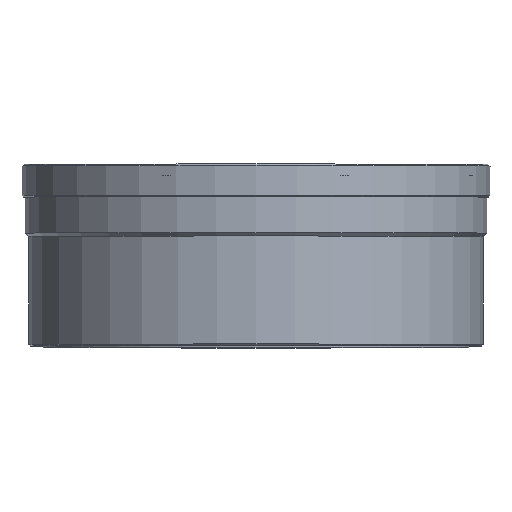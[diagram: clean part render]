
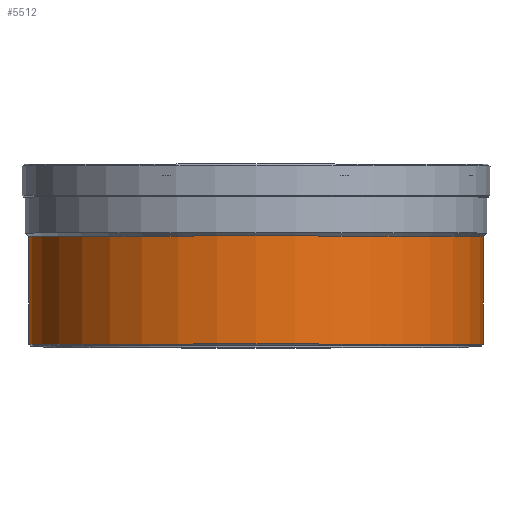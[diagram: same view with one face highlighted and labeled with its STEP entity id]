
A CAD part, top view. The second image highlights one B-rep face of the part: STEP entity #5512.
In plain terms, the highlighted cylindrical face has radius 69.5 mm (diameter 139 mm), a partial arc.
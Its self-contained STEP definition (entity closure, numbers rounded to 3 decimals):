
#919=CARTESIAN_POINT('',(0.,-1.,0.));
#920=DIRECTION('',(0.,1.,0.));
#921=DIRECTION('',(-1.,0.,0.));
#922=AXIS2_PLACEMENT_3D('',#919,#920,#921);
#924=CARTESIAN_POINT('',(0.,-34.,
0.));
#925=DIRECTION('',(0.,1.,0.));
#926=DIRECTION('',(-1.,0.,0.));
#927=AXIS2_PLACEMENT_3D('',#924,#925,#926);
#962=DIRECTION('',(0.,1.,0.));
#963=VECTOR('',#962,33.);
#964=CARTESIAN_POINT('',(69.5,-34.,
0.));
#965=LINE('',#964,#963);
#971=DIRECTION('',(0.,-1.,0.));
#972=VECTOR('',#971,33.);
#973=CARTESIAN_POINT('',(-69.5,-1.,0.));
#974=LINE('',#973,#972);
#3920=CARTESIAN_POINT('',(-69.5,-1.,0.));
#3922=VERTEX_POINT('',#3920);
#3925=CARTESIAN_POINT('',(69.5,-1.,0.));
#3927=VERTEX_POINT('',#3925);
#3928=CARTESIAN_POINT('',(-69.5,-34.,0.));
#3929=CARTESIAN_POINT('',(69.5,-34.,0.));
#3930=VERTEX_POINT('',#3928);
#3931=VERTEX_POINT('',#3929);
#5498=CARTESIAN_POINT('',(0.,-34.66,0.));
#5499=DIRECTION('',(0.,1.,0.));
#5500=DIRECTION('',(1.,0.,0.));
#5501=AXIS2_PLACEMENT_3D('',#5498,#5499,#5500);
#5502=CYLINDRICAL_SURFACE('',#5501,69.5);
#5504=ORIENTED_EDGE('',*,*,#5503,.F.);
#5506=ORIENTED_EDGE('',*,*,#5505,.F.);
#5507=ORIENTED_EDGE('',*,*,#5493,.T.);
#5509=ORIENTED_EDGE('',*,*,#5508,.F.);
#5510=EDGE_LOOP('',(#5504,#5506,#5507,#5509));
#5511=FACE_OUTER_BOUND('',#5510,.F.);
#923=CIRCLE('',#922,69.5);
#928=CIRCLE('',#927,69.5);
#5493=EDGE_CURVE('',#3922,#3927,#923,.T.);
#5503=EDGE_CURVE('',#3930,#3931,#928,.T.);
#5505=EDGE_CURVE('',#3922,#3930,#974,.T.);
#5508=EDGE_CURVE('',#3931,#3927,#965,.T.);
#5512=ADVANCED_FACE('',(#5511),#5502,.T.);
